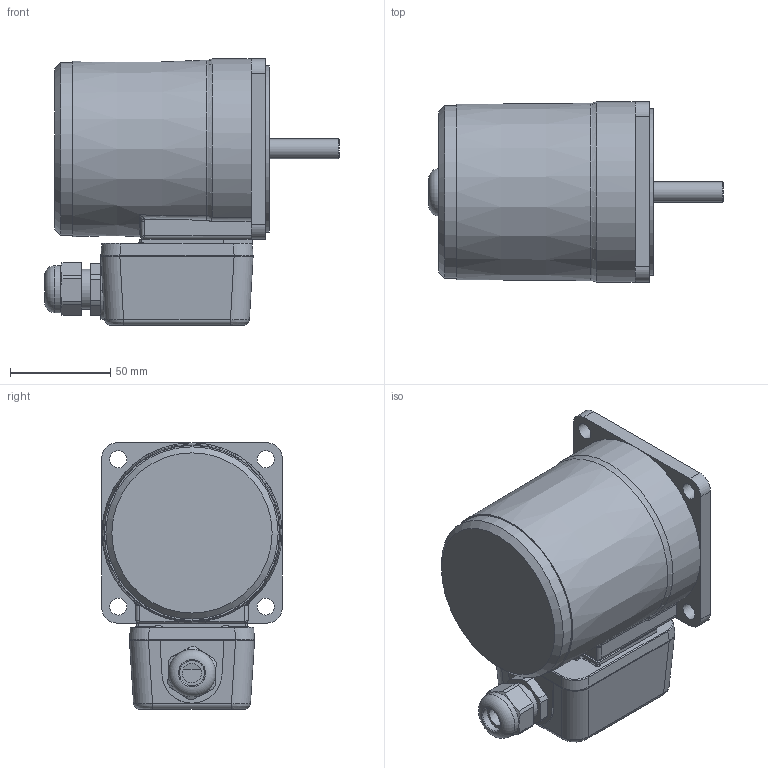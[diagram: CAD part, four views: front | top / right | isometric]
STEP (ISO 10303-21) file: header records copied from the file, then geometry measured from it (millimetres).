
FILE_DESCRIPTION(/* description */ (''),/* implementation_level */ '2;1');
FILE_NAME(/* name */ 'E:\도면작업\2016\0704) 미주향 SG 도면\3D MOTOR\TERMINAL BOX TYPE\INDUCTION TERMINAL BOX\SG9I40S_-T.stp',/* time_stamp */ '2017-01-23T18:36:40+09:00',/* author */ ('jy-jung'),/* organization */ (''),/* preprocessor_version */ 'ST-DEVELOPER v15.6',/* originating_system */ 'Autodesk Inventor 2015',/* authorisation */ '');
FILE_SCHEMA (('AUTOMOTIVE_DESIGN { 1 0 10303 214 3 1 1 }'));
Length unit declared in the file: millimetre
Products named in the file (1): 부품1
Bounding box: 147 x 90 x 133 mm (x, y, z)
Volume: 852553.6 mm3; surface area: 71072.8 mm2
Topology: 1 solids, 9 shells, 364 faces, 908 edges, 576 vertices
Faces by surface type: plane 186, cylinder 105, bspline 50, torus 18, cone 5
Full cylindrical faces by diameter (mm): 2.55 x2, 5.6 x4, 6.3 x4, 8.5 x4, 10 x1, 12.5 x1, 15 x1, 20 x2, 21 x1, 23.6 x1, 40 x1, 83 x1, 86 x1
Entity records: 12607 total; most frequent: CARTESIAN_POINT 4030, ORIENTED_EDGE 1698, DIRECTION 1618, EDGE_CURVE 849, AXIS2_PLACEMENT_3D 580, VERTEX_POINT 563, LINE 458, VECTOR 458
